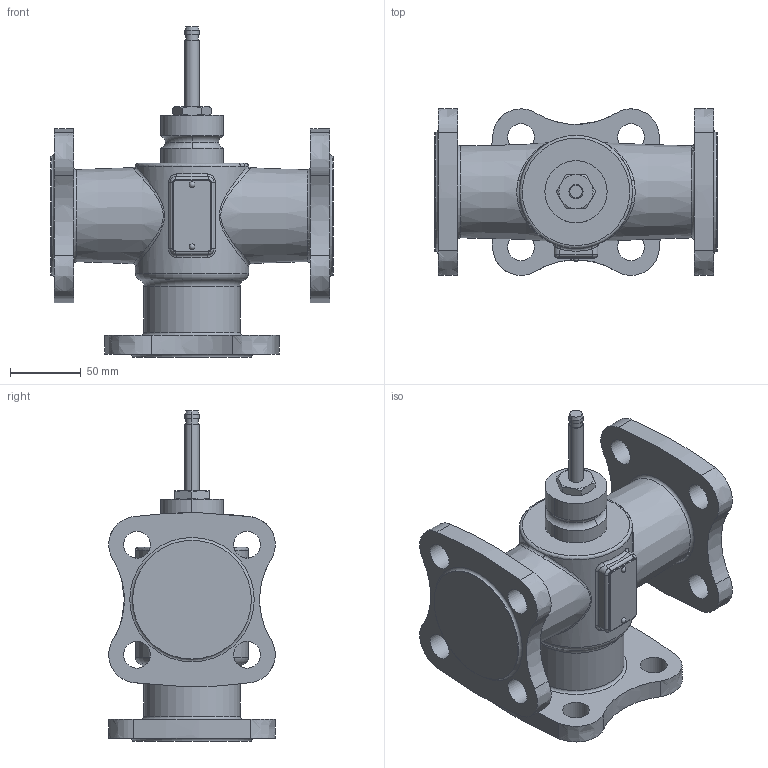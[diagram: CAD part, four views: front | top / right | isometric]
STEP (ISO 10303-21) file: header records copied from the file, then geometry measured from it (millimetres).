
FILE_DESCRIPTION(/* description */ ('Step214'),/* implementation_level */ '2;1');
FILE_NAME(/* name */ 'VXF32_42 DN40 RF.stp',/* time_stamp */ '2015-11-04T12:02:52+01:00',/* author */ (''),/* organization */ ('Siemens'),/* preprocessor_version */ 'ST-DEVELOPER v15',/* originating_system */ 'SIEMENS PLM Software NX 8.5',/* authorisation */ 'for Duktil only');
FILE_SCHEMA (('AUTOMOTIVE_DESIGN { 1 0 10303 214 3 1 1 1 }'));
Length unit declared in the file: millimetre
Products named in the file (1): Volc0CEC07D0adv8
Bounding box: 200 x 117.73 x 233.5 mm (x, y, z)
Volume: 1479067.5 mm3; surface area: 145082.6 mm2
Topology: 1 solids, 1 shells, 132 faces, 324 edges, 205 vertices
Faces by surface type: cylinder 40, plane 31, extrusion 24, torus 15, bspline 12, cone 8, sphere 2
Full cylindrical faces by diameter (mm): 19 x12, 68 x1, 80 x1, 84 x2
Entity records: 5910 total; most frequent: CARTESIAN_POINT 3017, ORIENTED_EDGE 568, DIRECTION 544, EDGE_CURVE 284, AXIS2_PLACEMENT_3D 219, EDGE_LOOP 198, VERTEX_POINT 196, ADVANCED_FACE 132
